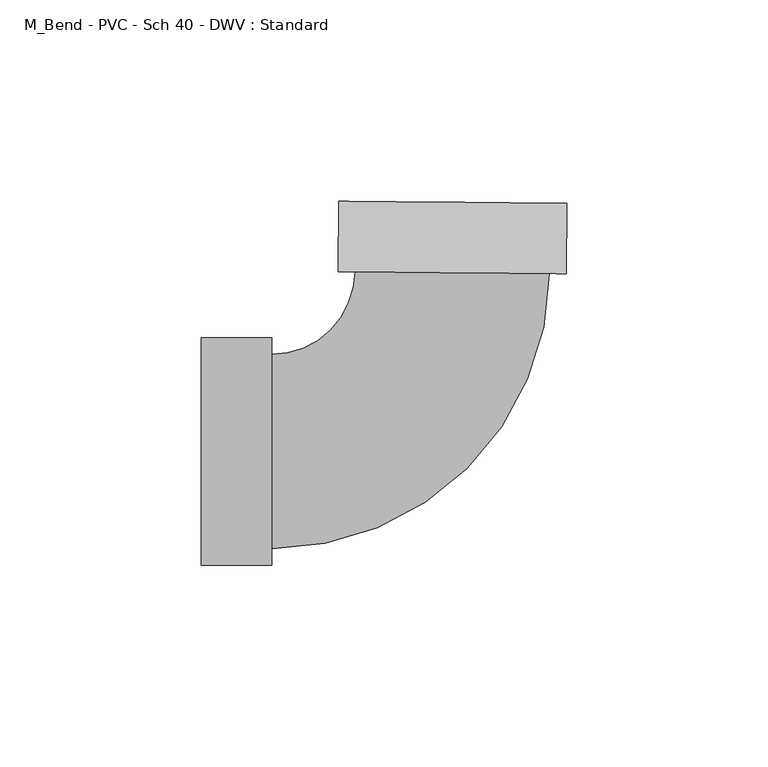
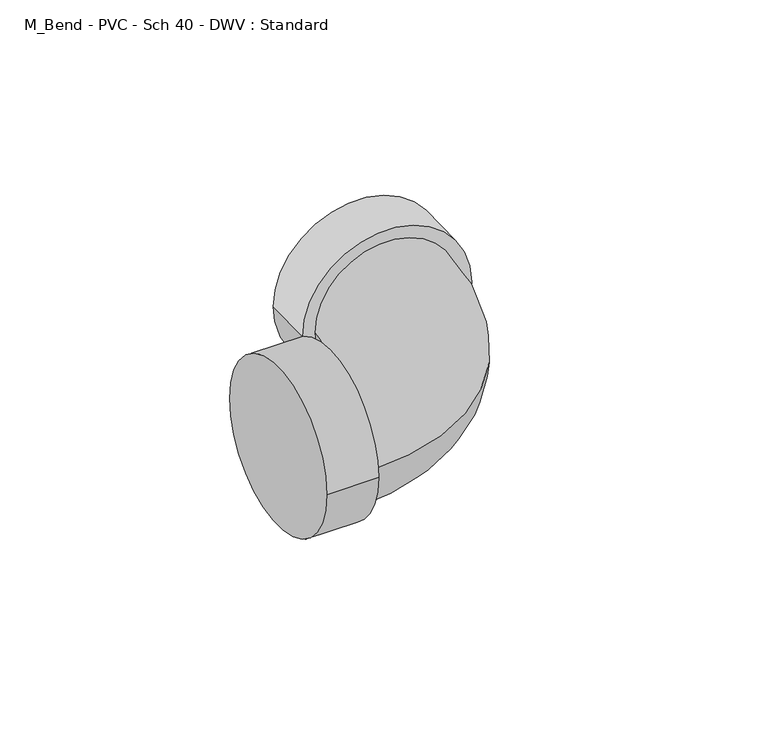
"""IFC4 building model written with IfcOpenShell, lengths in millimetres: pipe fitting geometry, M_Bend - PVC - Sch 40 - DWV : Standard."""

from ifc_helpers import new_model, si_unit, point, frame, origin, place, context, project, spatial, circle_curve, ellipse_curve, trimmed, source, transform, mapped, element, save
from ifc_brep_helpers import plane_surface, cylinder_surface, revolved_surface, advanced_brep


def m_bend_pvc_sch_40_dwv_standard_b3f66ba9(model_context):
    return source(origin(), model_context, "Body", "AdvancedBrep", [
        advanced_brep(
        [(-61.8998, -28.2829, 0.0), (-61.8998, 28.2829, 0.0), (-44.45, -28.2829, 0.0), (-44.45, 28.2829, 0.0), (-44.45, -24.13, 0.0), (-44.45, 24.13, 0.0), (-23.7208865, 44.6696647, 0.0), (24.5370795, 44.2265885, 0.0), (28.6898045, 44.1884606, 0.0), (-27.8736115, 44.7077926, 0.0), (28.8500115, 61.6375252, 0.0), (-27.7134045, 62.1568571, 0.0)],
        [
            (0, 1, circle_curve(frame((-61.8998, 0.0, 0.0), z_axis=(-1.0, 0.0, 0.0), x_axis=(0.0, 1.0, 0.0)), 28.2829)),
            (1, 0, circle_curve(frame((-61.8998, 0.0, 0.0), z_axis=(-1.0, 0.0, 0.0), x_axis=(0.0, 1.0, 0.0)), 28.2829)),
            (2, 3, circle_curve(frame((-44.45, 0.0, 0.0), z_axis=(1.0, 0.0, 0.0), x_axis=(0.0, 1.0, 0.0)), 28.2829)),
            (3, 2, circle_curve(frame((-44.45, 0.0, 0.0), z_axis=(1.0, 0.0, 0.0), x_axis=(0.0, 1.0, 0.0)), 28.2829)),
            (4, 5, circle_curve(frame((-44.45, 0.0, 0.0), z_axis=(-1.0, 0.0, 0.0), x_axis=(0.0, 1.0, 0.0)), 24.13)),
            (5, 4, circle_curve(frame((-44.45, 0.0, 0.0), z_axis=(-1.0, 0.0, 0.0), x_axis=(0.0, 1.0, 0.0)), 24.13)),
            (0, 2),
            (3, 1),
            (6, 5, circle_curve(frame((-44.45, 44.8599872, 0.0), z_axis=(0.0, 0.0, -1.0), x_axis=(0.0, -1.0, 0.0)), 20.7299872)),
            (4, 7, circle_curve(frame((-44.45, 44.8599872, 0.0), z_axis=(0.0, 0.0, 1.0), x_axis=(0.0, -1.0, 0.0)), 68.9899872)),
            (7, 6, circle_curve(frame((0.4080965, 44.4481266, 0.0), z_axis=(-0.009181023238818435, -0.9999578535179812, 0.0), x_axis=(-0.9999578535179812, 0.009181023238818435, 0.0)), 24.13)),
            (6, 7, circle_curve(frame((0.4080965, 44.4481266, 0.0), z_axis=(-0.009181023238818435, -0.9999578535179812, 0.0), x_axis=(-0.9999578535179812, 0.009181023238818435, 0.0)), 24.13)),
            (8, 9, circle_curve(frame((0.4080965, 44.4481266, 0.0), z_axis=(-0.009181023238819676, -0.9999578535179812, 0.0), x_axis=(-0.9999578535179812, 0.009181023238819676, 0.0)), 28.2829)),
            (9, 8, circle_curve(frame((0.4080965, 44.4481266, 0.0), z_axis=(-0.009181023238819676, -0.9999578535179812, 0.0), x_axis=(-0.9999578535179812, 0.009181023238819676, 0.0)), 28.2829)),
            (10, 11, circle_curve(frame((0.5683035, 61.8971911, 0.0), z_axis=(0.009181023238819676, 0.9999578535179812, 0.0), x_axis=(-0.9999578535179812, 0.009181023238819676, 0.0)), 28.2829)),
            (11, 10, circle_curve(frame((0.5683035, 61.8971911, 0.0), z_axis=(0.009181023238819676, 0.9999578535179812, 0.0), x_axis=(-0.9999578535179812, 0.009181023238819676, 0.0)), 28.2829)),
            (8, 10),
            (11, 9),
        ],
        [
            plane_surface(frame((-61.8998, 0.0, 0.0), z_axis=(-1.0, 0.0, 0.0), x_axis=(0.0, 0.0, 1.0))),
            plane_surface(frame((-44.45, 0.0, 0.0), z_axis=(1.0, 0.0, 0.0), x_axis=(0.0, 0.0, 1.0))),
            cylinder_surface(frame((-61.8998, 0.0, 0.0), z_axis=(-1.0, 0.0, 0.0), x_axis=(0.0, 1.0, 0.0)), 28.2829),
            revolved_surface(trimmed(ellipse_curve(frame((-44.45, 0.0, 0.0), z_axis=(-1.0, 0.0, 0.0), x_axis=(0.0, 1.0, 0.0)), 24.13, 24.13), [point((-44.45, -24.13, 0.0))], [point((-44.45, 24.13, 0.0))], True, "CARTESIAN"), (-44.45, 44.8599872, 0.0), (0.0, 0.0, 1.0)),
            revolved_surface(trimmed(ellipse_curve(frame((-44.45, 0.0, 0.0), z_axis=(-1.0, 0.0, 0.0), x_axis=(0.0, 1.0, 0.0)), 24.13, 24.13), [point((-44.45, 24.13, 0.0))], [point((-44.45, -24.13, 0.0))], True, "CARTESIAN"), (-44.45, 44.8599872, 0.0), (0.0, 0.0, 1.0)),
            plane_surface(frame((0.4080965, 44.4481266, 0.0), z_axis=(-0.009181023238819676, -0.9999578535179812, 0.0), x_axis=(0.0, 0.0, 1.0))),
            plane_surface(frame((0.5683035, 61.8971911, 0.0), z_axis=(0.009181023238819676, 0.9999578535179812, 0.0), x_axis=(0.0, 0.0, 1.0))),
            cylinder_surface(frame((0.4080965, 44.4481266, 0.0), z_axis=(-0.009181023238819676, -0.9999578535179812, 0.0), x_axis=(-0.9999578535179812, 0.009181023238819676, 0.0)), 28.2829),
        ],
        [
            (0, [[1, 2]]),
            (1, [[3, 4], [5, 6]]),
            (2, [[-1, 7, -4, 8]]),
            (2, [[-2, -8, -3, -7]]),
            (3, [[9, -5, 10, 11]]),
            (4, [[-9, 12, -10, -6]]),
            (5, [[13, 14], [-11, -12]]),
            (6, [[15, 16]]),
            (7, [[-13, 17, -16, 18]]),
            (7, [[-14, -18, -15, -17]]),
        ],
    ),
    ])


if __name__ == "__main__":
    model = new_model("IFC4")
    model_context = context("Model", 3, world=origin())
    ifc_project = project(units=[si_unit("LENGTHUNIT", "METRE", prefix="MILLI")], contexts=[model_context])
    site = spatial("IfcSite", under=ifc_project)
    building = spatial("IfcBuilding", under=site)
    placement = place(None, origin())
    m_bend_pvc_sch_40_dwv_standard_shape = m_bend_pvc_sch_40_dwv_standard_b3f66ba9(model_context)
    element("IfcPipeFitting", 1, ObjectType="M_Bend - PVC - Sch 40 - DWV : Standard", at=placement, inside=building, context=model_context, shape_type="MappedRepresentation", body=[
        mapped(m_bend_pvc_sch_40_dwv_standard_shape, transform((0.0, 0.0, 0.0), x_axis=(1.0, 0.0, 0.0), y_axis=(0.0, 1.0, 0.0), z_axis=(0.0, 0.0, 1.0))),
    ])
    save(model, "model.ifc")
